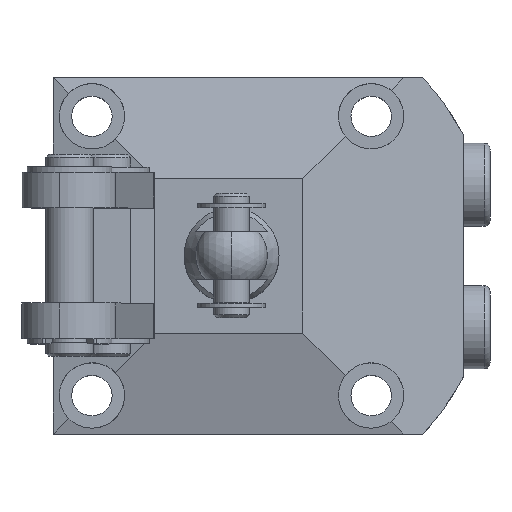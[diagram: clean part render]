
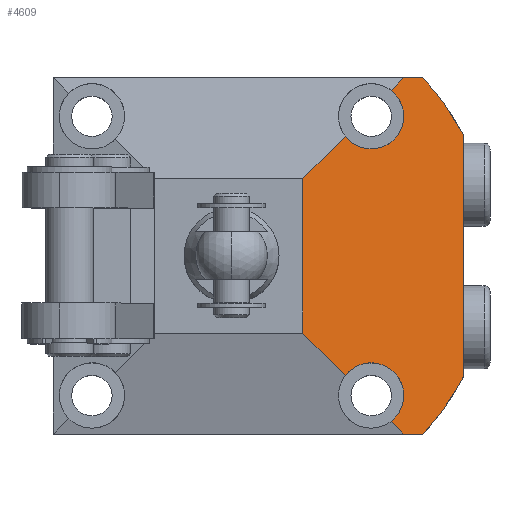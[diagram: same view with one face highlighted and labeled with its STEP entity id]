
A CAD part, top view. The second image highlights one B-rep face of the part: STEP entity #4609.
In plain terms, the highlighted planar face has unit normal (0.259, 0, 0.966).
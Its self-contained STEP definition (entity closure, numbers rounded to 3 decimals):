
#9 = ORIENTED_EDGE ( 'NONE', *, *, #7964, .T. ) ;
#89 = CARTESIAN_POINT ( 'NONE',  ( 5.212, -6.212, 68.819 ) ) ;
#123 = VECTOR ( 'NONE', #1077, 1000. ) ;
#142 = CARTESIAN_POINT ( 'NONE',  ( 28.233, -26.796, 62.65 ) ) ;
#169 = PLANE ( 'NONE',  #6890 ) ;
#300 =( BOUNDED_CURVE ( )  B_SPLINE_CURVE ( 3, ( #5672, #5635, #2315, #7055 ),
 .UNSPECIFIED., .F., .F. ) 
 B_SPLINE_CURVE_WITH_KNOTS ( ( 4, 4 ),
 ( 0.656, 3.142 ),
 .UNSPECIFIED. ) 
 CURVE ( )  GEOMETRIC_REPRESENTATION_ITEM ( )  RATIONAL_B_SPLINE_CURVE ( ( 1., 0.548, 0.548, 1. ) ) 
 REPRESENTATION_ITEM ( '' )  );
#323 = DIRECTION ( 'NONE',  ( 0.695, -0.695, -0.186 ) ) ;
#407 = EDGE_CURVE ( 'NONE', #1463, #2886, #3093, .T. ) ;
#430 =( BOUNDED_CURVE ( )  B_SPLINE_CURVE ( 3, ( #5693, #3809, #5691, #1954 ),
 .UNSPECIFIED., .F., .T. ) 
 B_SPLINE_CURVE_WITH_KNOTS ( ( 4, 4 ),
 ( 2.391, 2.66 ),
 .UNSPECIFIED. ) 
 CURVE ( )  GEOMETRIC_REPRESENTATION_ITEM ( )  RATIONAL_B_SPLINE_CURVE ( ( 1., 0.994, 0.994, 1. ) ) 
 REPRESENTATION_ITEM ( '' )  );
#463 = ORIENTED_EDGE ( 'NONE', *, *, #6109, .T. ) ;
#485 = VERTEX_POINT ( 'NONE', #5544 ) ;
#498 = VERTEX_POINT ( 'NONE', #1815 ) ;
#518 = VERTEX_POINT ( 'NONE', #599 ) ;
#519 = CARTESIAN_POINT ( 'NONE',  ( 19.143, 20.143, 65.086 ) ) ;
#538 = DIRECTION ( 'NONE',  ( -0.966, 0., 0.259 ) ) ;
#599 = CARTESIAN_POINT ( 'NONE',  ( 26.857, -27.857, 63.019 ) ) ;
#655 = ORIENTED_EDGE ( 'NONE', *, *, #3766, .T. ) ;
#700 = CARTESIAN_POINT ( 'NONE',  ( 26.857, 27.857, 63.019 ) ) ;
#733 = DIRECTION ( 'NONE',  ( 0.695, -0.695, -0.186 ) ) ;
#785 = EDGE_CURVE ( 'NONE', #2886, #3241, #8087, .T. ) ;
#880 = EDGE_CURVE ( 'NONE', #485, #4116, #1078, .T. ) ;
#881 = CARTESIAN_POINT ( 'NONE',  ( 34.174, 35.174, 61.059 ) ) ;
#984 = LINE ( 'NONE', #4879, #5750 ) ;
#1077 = DIRECTION ( 'NONE',  ( -0.695, -0.695, 0.186 ) ) ;
#1078 = LINE ( 'NONE', #4046, #7492 ) ;
#1114 = ORIENTED_EDGE ( 'NONE', *, *, #407, .T. ) ;
#1263 = VECTOR ( 'NONE', #733, 1000. ) ;
#1265 = EDGE_LOOP ( 'NONE', ( #2149, #6511, #6951, #4850, #2070, #6217, #1114, #1591, #2405, #5836, #2957, #655, #463, #9 ) ) ;
#1401 = CARTESIAN_POINT ( 'NONE',  ( 19.143, 20.143, 65.086 ) ) ;
#1410 = CARTESIAN_POINT ( 'NONE',  ( 12., 13., 67. ) ) ;
#1463 = VERTEX_POINT ( 'NONE', #6561 ) ;
#1482 = VERTEX_POINT ( 'NONE', #2320 ) ;
#1591 = ORIENTED_EDGE ( 'NONE', *, *, #785, .T. ) ;
#1704 = CARTESIAN_POINT ( 'NONE',  ( 39., 20.372, 59.765 ) ) ;
#1774 = CARTESIAN_POINT ( 'NONE',  ( 19.143, -20.143, 65.086 ) ) ;
#1815 = CARTESIAN_POINT ( 'NONE',  ( 32.187, -30., 61.591 ) ) ;
#1863 = CARTESIAN_POINT ( 'NONE',  ( 28.233, 26.796, 62.65 ) ) ;
#1877 =( BOUNDED_CURVE ( )  B_SPLINE_CURVE ( 3, ( #1704, #7921, #2325, #6672 ),
 .UNSPECIFIED., .F., .F. ) 
 B_SPLINE_CURVE_WITH_KNOTS ( ( 4, 4 ),
 ( 3.623, 3.892 ),
 .UNSPECIFIED. ) 
 CURVE ( )  GEOMETRIC_REPRESENTATION_ITEM ( )  RATIONAL_B_SPLINE_CURVE ( ( 1., 0.994, 0.994, 1. ) ) 
 REPRESENTATION_ITEM ( '' )  );
#1954 = CARTESIAN_POINT ( 'NONE',  ( 39., -20.372, 59.765 ) ) ;
#1994 = LINE ( 'NONE', #7925, #7153 ) ;
#2070 = ORIENTED_EDGE ( 'NONE', *, *, #4049, .T. ) ;
#2149 = ORIENTED_EDGE ( 'NONE', *, *, #7391, .T. ) ;
#2155 = VERTEX_POINT ( 'NONE', #6229 ) ;
#2182 = CARTESIAN_POINT ( 'NONE',  ( 26.857, 27.857, 63.019 ) ) ;
#2266 = VERTEX_POINT ( 'NONE', #2182 ) ;
#2315 = CARTESIAN_POINT ( 'NONE',  ( 29., -17.169, 62.445 ) ) ;
#2320 = CARTESIAN_POINT ( 'NONE',  ( 29., -30., 62.445 ) ) ;
#2325 = CARTESIAN_POINT ( 'NONE',  ( 34.884, 27.106, 60.868 ) ) ;
#2379 = EDGE_CURVE ( 'NONE', #4116, #4843, #300, .T. ) ;
#2405 = ORIENTED_EDGE ( 'NONE', *, *, #3468, .T. ) ;
#2677 = DIRECTION ( 'NONE',  ( -0.259, 0., -0.966 ) ) ;
#2771 = DIRECTION ( 'NONE',  ( 0., -1., 0. ) ) ;
#2866 = EDGE_CURVE ( 'NONE', #2266, #1463, #8038, .T. ) ;
#2886 = VERTEX_POINT ( 'NONE', #1401 ) ;
#2896 = CARTESIAN_POINT ( 'NONE',  ( 34.174, 35.174, 61.059 ) ) ;
#2957 = ORIENTED_EDGE ( 'NONE', *, *, #2379, .T. ) ;
#3093 =( BOUNDED_CURVE ( )  B_SPLINE_CURVE ( 3, ( #4234, #7982, #7349, #519 ),
 .UNSPECIFIED., .F., .F. ) 
 B_SPLINE_CURVE_WITH_KNOTS ( ( 4, 4 ),
 ( 3.142, 5.627 ),
 .UNSPECIFIED. ) 
 CURVE ( )  GEOMETRIC_REPRESENTATION_ITEM ( )  RATIONAL_B_SPLINE_CURVE ( ( 1., 0.548, 0.548, 1. ) ) 
 REPRESENTATION_ITEM ( '' )  );
#3241 = VERTEX_POINT ( 'NONE', #1410 ) ;
#3251 = VERTEX_POINT ( 'NONE', #3296 ) ;
#3262 = CARTESIAN_POINT ( 'NONE',  ( 29., -23.5, 62.445 ) ) ;
#3288 = CARTESIAN_POINT ( 'NONE',  ( 39., 30.001, 59.765 ) ) ;
#3296 = CARTESIAN_POINT ( 'NONE',  ( 32.187, 30., 61.591 ) ) ;
#3413 = VECTOR ( 'NONE', #2771, 1000. ) ;
#3443 = FACE_OUTER_BOUND ( 'NONE', #1265, .T. ) ;
#3468 = EDGE_CURVE ( 'NONE', #3241, #485, #1994, .T. ) ;
#3638 = LINE ( 'NONE', #2896, #123 ) ;
#3674 = CARTESIAN_POINT ( 'NONE',  ( 39., -30., 59.765 ) ) ;
#3766 = EDGE_CURVE ( 'NONE', #4843, #518, #6783, .T. ) ;
#3809 = CARTESIAN_POINT ( 'NONE',  ( 34.884, -27.106, 60.868 ) ) ;
#4046 = CARTESIAN_POINT ( 'NONE',  ( 5.212, -6.212, 68.819 ) ) ;
#4049 = EDGE_CURVE ( 'NONE', #2155, #2266, #3638, .T. ) ;
#4057 = CARTESIAN_POINT ( 'NONE',  ( 29., 23.5, 62.445 ) ) ;
#4116 = VERTEX_POINT ( 'NONE', #1774 ) ;
#4234 = CARTESIAN_POINT ( 'NONE',  ( 29., 23.5, 62.445 ) ) ;
#4411 = VERTEX_POINT ( 'NONE', #5167 ) ;
#4489 = CARTESIAN_POINT ( 'NONE',  ( 26.857, -27.857, 63.019 ) ) ;
#4609 = ADVANCED_FACE ( 'NONE', ( #3443 ), #169, .F. ) ;
#4843 = VERTEX_POINT ( 'NONE', #6615 ) ;
#4850 = ORIENTED_EDGE ( 'NONE', *, *, #7217, .T. ) ;
#4879 = CARTESIAN_POINT ( 'NONE',  ( 39., 30., 59.765 ) ) ;
#4941 = VECTOR ( 'NONE', #6443, 1000. ) ;
#5039 = LINE ( 'NONE', #6486, #3413 ) ;
#5167 = CARTESIAN_POINT ( 'NONE',  ( 39., 20.372, 59.765 ) ) ;
#5404 = DIRECTION ( 'NONE',  ( 0., -1., 0. ) ) ;
#5544 = CARTESIAN_POINT ( 'NONE',  ( 12., -13., 67. ) ) ;
#5635 = CARTESIAN_POINT ( 'NONE',  ( 23.007, -15.128, 64.051 ) ) ;
#5672 = CARTESIAN_POINT ( 'NONE',  ( 19.143, -20.143, 65.086 ) ) ;
#5691 = CARTESIAN_POINT ( 'NONE',  ( 37.169, -23.878, 60.256 ) ) ;
#5693 = CARTESIAN_POINT ( 'NONE',  ( 32.187, -30., 61.591 ) ) ;
#5750 = VECTOR ( 'NONE', #538, 1000. ) ;
#5829 = VECTOR ( 'NONE', #8045, 1000. ) ;
#5836 = ORIENTED_EDGE ( 'NONE', *, *, #880, .T. ) ;
#6021 = LINE ( 'NONE', #3674, #5829 ) ;
#6109 = EDGE_CURVE ( 'NONE', #518, #1482, #7898, .T. ) ;
#6217 = ORIENTED_EDGE ( 'NONE', *, *, #2866, .T. ) ;
#6229 = CARTESIAN_POINT ( 'NONE',  ( 29., 30., 62.445 ) ) ;
#6269 = EDGE_CURVE ( 'NONE', #4411, #6809, #5039, .T. ) ;
#6370 = CARTESIAN_POINT ( 'NONE',  ( 39., -20.372, 59.765 ) ) ;
#6443 = DIRECTION ( 'NONE',  ( -0.695, -0.695, 0.186 ) ) ;
#6486 = CARTESIAN_POINT ( 'NONE',  ( 39., 30.001, 59.765 ) ) ;
#6511 = ORIENTED_EDGE ( 'NONE', *, *, #6269, .F. ) ;
#6561 = CARTESIAN_POINT ( 'NONE',  ( 29., 23.5, 62.445 ) ) ;
#6615 = CARTESIAN_POINT ( 'NONE',  ( 29., -23.5, 62.445 ) ) ;
#6672 = CARTESIAN_POINT ( 'NONE',  ( 32.187, 30., 61.591 ) ) ;
#6783 =( BOUNDED_CURVE ( )  B_SPLINE_CURVE ( 3, ( #3262, #7611, #142, #4489 ),
 .UNSPECIFIED., .F., .F. ) 
 B_SPLINE_CURVE_WITH_KNOTS ( ( 4, 4 ),
 ( 3.142, 4.056 ),
 .UNSPECIFIED. ) 
 CURVE ( )  GEOMETRIC_REPRESENTATION_ITEM ( )  RATIONAL_B_SPLINE_CURVE ( ( 1., 0.932, 0.932, 1. ) ) 
 REPRESENTATION_ITEM ( '' )  );
#6809 = VERTEX_POINT ( 'NONE', #6370 ) ;
#6890 = AXIS2_PLACEMENT_3D ( 'NONE', #3288, #2677, #7024 ) ;
#6951 = ORIENTED_EDGE ( 'NONE', *, *, #7815, .T. ) ;
#7024 = DIRECTION ( 'NONE',  ( -0.966, 0., 0.259 ) ) ;
#7055 = CARTESIAN_POINT ( 'NONE',  ( 29., -23.5, 62.445 ) ) ;
#7153 = VECTOR ( 'NONE', #5404, 1000. ) ;
#7217 = EDGE_CURVE ( 'NONE', #3251, #2155, #984, .T. ) ;
#7225 = CARTESIAN_POINT ( 'NONE',  ( 29., 25.237, 62.445 ) ) ;
#7349 = CARTESIAN_POINT ( 'NONE',  ( 23.007, 15.128, 64.051 ) ) ;
#7391 = EDGE_CURVE ( 'NONE', #498, #6809, #430, .T. ) ;
#7492 = VECTOR ( 'NONE', #323, 1000. ) ;
#7611 = CARTESIAN_POINT ( 'NONE',  ( 29., -25.237, 62.445 ) ) ;
#7815 = EDGE_CURVE ( 'NONE', #4411, #3251, #1877, .T. ) ;
#7898 = LINE ( 'NONE', #89, #1263 ) ;
#7921 = CARTESIAN_POINT ( 'NONE',  ( 37.169, 23.878, 60.256 ) ) ;
#7925 = CARTESIAN_POINT ( 'NONE',  ( 12., 30.001, 67. ) ) ;
#7964 = EDGE_CURVE ( 'NONE', #1482, #498, #6021, .T. ) ;
#7982 = CARTESIAN_POINT ( 'NONE',  ( 29., 17.169, 62.445 ) ) ;
#8038 =( BOUNDED_CURVE ( )  B_SPLINE_CURVE ( 3, ( #700, #1863, #7225, #4057 ),
 .UNSPECIFIED., .F., .F. ) 
 B_SPLINE_CURVE_WITH_KNOTS ( ( 4, 4 ),
 ( 2.227, 3.142 ),
 .UNSPECIFIED. ) 
 CURVE ( )  GEOMETRIC_REPRESENTATION_ITEM ( )  RATIONAL_B_SPLINE_CURVE ( ( 1., 0.932, 0.932, 1. ) ) 
 REPRESENTATION_ITEM ( '' )  );
#8045 = DIRECTION ( 'NONE',  ( 0.966, 0., -0.259 ) ) ;
#8087 = LINE ( 'NONE', #881, #4941 ) ;
